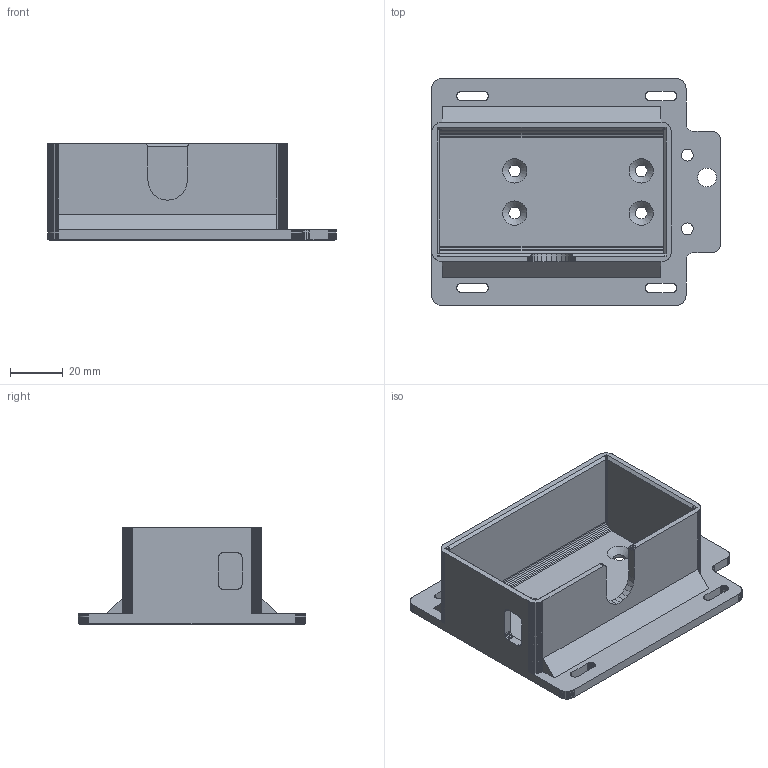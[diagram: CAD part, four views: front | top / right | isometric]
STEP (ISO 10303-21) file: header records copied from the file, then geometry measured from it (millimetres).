
FILE_DESCRIPTION(('Open CASCADE Model'),'2;1');
FILE_NAME('Open CASCADE Shape Model','2026-11-27T19:31:38',('Author'),( 'Open CASCADE'),'Open CASCADE STEP processor 8.0','build123d', 'Unknown');
FILE_SCHEMA(('AUTOMOTIVE_DESIGN { 1 0 10303 214 1 1 1 1 }'));
Length unit declared in the file: millimetre
Products named in the file (2): =>[0:1:1:2]; SOLID
Assembly tree (1 placements, depth 2):
  =>[0:1:1:2]
    SOLID
Bounding box: 109.5 x 86.4 x 36.8 mm (x, y, z)
Volume: 62658.4 mm3; surface area: 36061 mm2
Topology: 1 solids, 1 shells, 790 faces, 2287 edges, 1506 vertices
Faces by surface type: plane 775, cylinder 11, cone 4
Full cylindrical faces by diameter (mm): 4.5 x6, 6.8 x4, 7.2 x1
Entity records: 54612 total; most frequent: CARTESIAN_POINT 9851, DIRECTION 7839, LINE 6193, VECTOR 6193, ORIENTED_EDGE 4574, PCURVE 4574, DEFINITIONAL_REPRESENTATION 4574, EDGE_CURVE 2287
